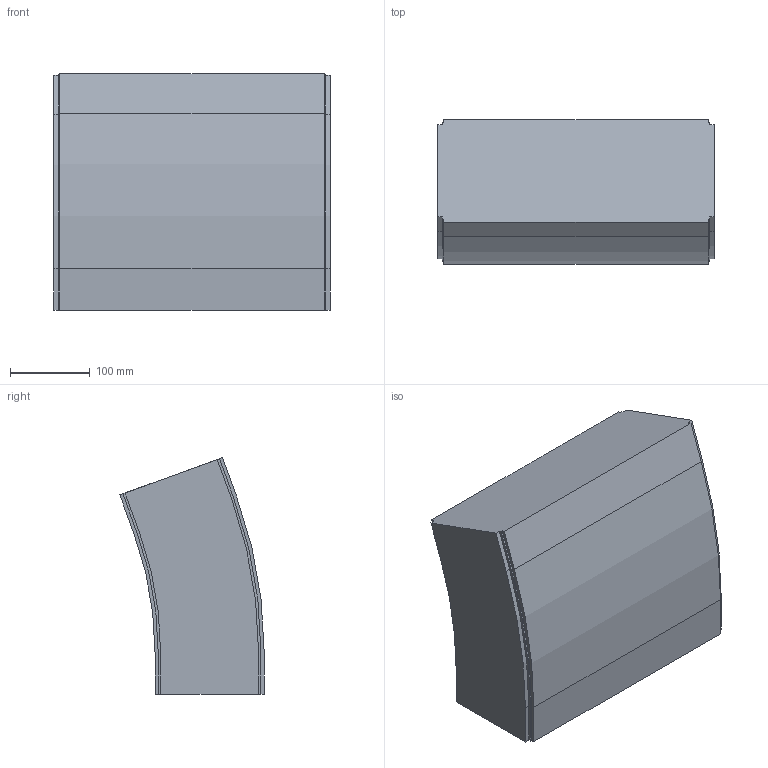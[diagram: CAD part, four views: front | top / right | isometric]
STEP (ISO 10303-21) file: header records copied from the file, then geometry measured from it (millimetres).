
FILE_DESCRIPTION (( 'STEP AP214' ), '1' );
FILE_NAME ('FS-MTC2-150-INOX verticaalbocht.350 20°.STEP', '2017-02-08T12:42:02', ( '' ), ( '' ), 'SwSTEP 2.0', 'SolidWorks 2016', '' );
FILE_SCHEMA (( 'AUTOMOTIVE_DESIGN' ));
Length unit declared in the file: millimetre
Products named in the file (1): FS-MTC2-150-INOX verticaalbocht.350 20°
Bounding box: 346 x 180.49 x 296.19 mm (x, y, z)
Volume: 13146601.2 mm3; surface area: 363810.5 mm2
Topology: 1 solids, 1 shells, 42 faces, 120 edges, 80 vertices
Faces by surface type: plane 32, cylinder 10
Entity records: 1398 total; most frequent: CARTESIAN_POINT 243, ORIENTED_EDGE 240, DIRECTION 226, EDGE_CURVE 120, VECTOR 100, LINE 100, VERTEX_POINT 80, AXIS2_PLACEMENT_3D 63
